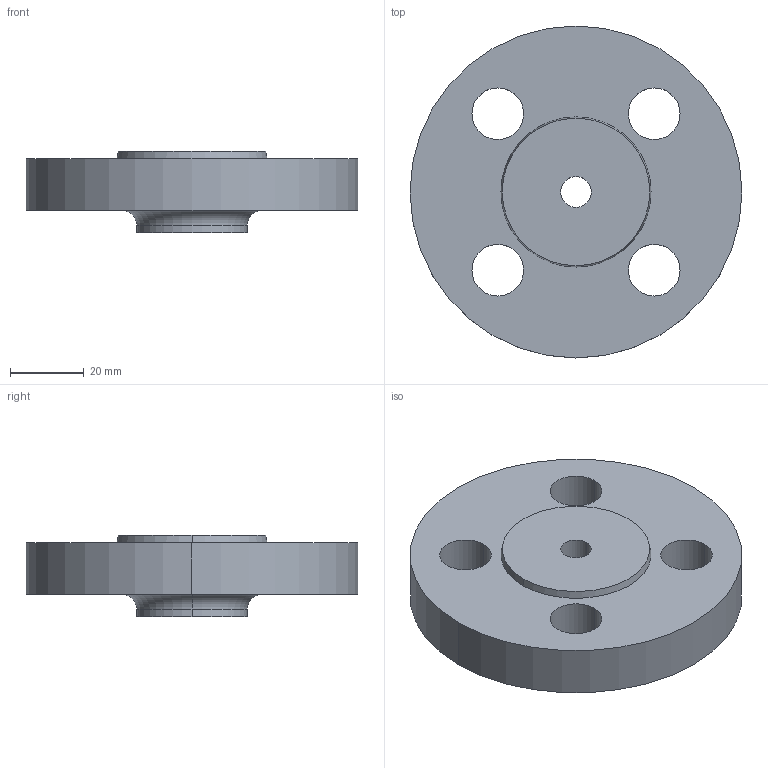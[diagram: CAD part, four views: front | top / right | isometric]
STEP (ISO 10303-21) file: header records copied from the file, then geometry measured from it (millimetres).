
FILE_DESCRIPTION (( 'STEP AP214' ), '1' );
FILE_NAME ('PN40 DN10 Type 13 - Type B Face.STEP', '2018-12-29T03:58:56', ( '' ), ( '' ), 'SwSTEP 2.0', 'SolidWorks 2019', '' );
FILE_SCHEMA (( 'AUTOMOTIVE_DESIGN' ));
Length unit declared in the file: millimetre
Products named in the file (1): PN40 DN10 Type 13 - Type B Face
Bounding box: 90 x 90 x 22 mm (x, y, z)
Volume: 86373.3 mm3; surface area: 19005.6 mm2
Topology: 1 solids, 1 shells, 22 faces, 52 edges, 34 vertices
Faces by surface type: cylinder 14, plane 4, torus 2, cone 2
Entity records: 710 total; most frequent: DIRECTION 134, CARTESIAN_POINT 109, ORIENTED_EDGE 104, AXIS2_PLACEMENT_3D 59, EDGE_CURVE 52, CIRCLE 36, EDGE_LOOP 34, VERTEX_POINT 34
